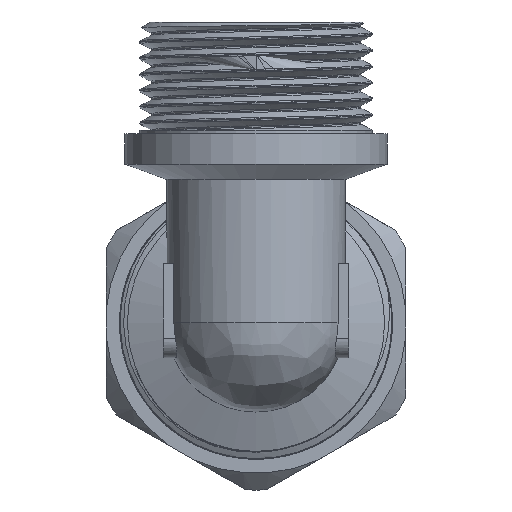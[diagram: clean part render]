
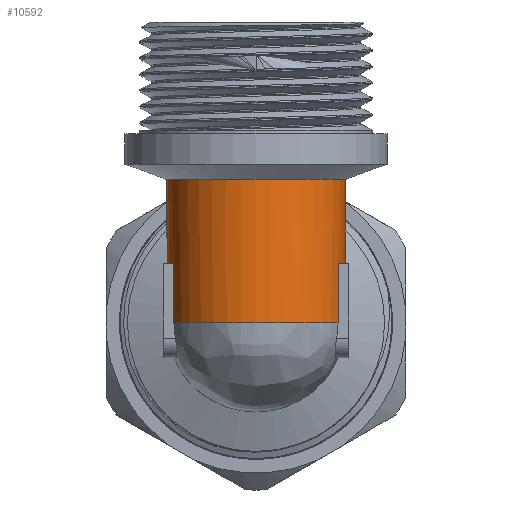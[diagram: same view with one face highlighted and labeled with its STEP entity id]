
A CAD part, front view. The second image highlights one B-rep face of the part: STEP entity #10592.
In plain terms, the highlighted cylindrical face has radius 12.75 mm (diameter 25.5 mm), a full revolution.
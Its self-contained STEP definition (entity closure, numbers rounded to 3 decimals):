
#1027=ELLIPSE('',#11269,18.031,12.75);
#1313=CYLINDRICAL_SURFACE('',#11333,12.75);
#1479=FACE_OUTER_BOUND('',#2091,.T.);
#2091=EDGE_LOOP('',(#7556,#7557,#7558,#7559,#7560,#7561,#7562,#7563,#7564,
#7565,#7566,#7567,#7568,#7569));
#2788=LINE('',#14310,#3485);
#2791=LINE('',#14316,#3488);
#2794=LINE('',#14327,#3491);
#2799=LINE('',#14341,#3496);
#2804=LINE('',#14403,#3501);
#3485=VECTOR('',#12171,10.);
#3488=VECTOR('',#12176,10.);
#3491=VECTOR('',#12181,10.);
#3496=VECTOR('',#12188,10.);
#3501=VECTOR('',#12225,12.75);
#4078=CIRCLE('',#11237,12.75);
#4079=CIRCLE('',#11238,12.75);
#4080=CIRCLE('',#11239,12.75);
#4104=CIRCLE('',#11319,12.75);
#4105=CIRCLE('',#11320,12.75);
#4106=CIRCLE('',#11322,12.75);
#4111=CIRCLE('',#11332,12.75);
#4353=VERTEX_POINT('',#13838);
#4354=VERTEX_POINT('',#13840);
#4355=VERTEX_POINT('',#13842);
#4377=VERTEX_POINT('',#13902);
#4378=VERTEX_POINT('',#13904);
#4467=VERTEX_POINT('',#14309);
#4469=VERTEX_POINT('',#14315);
#4471=VERTEX_POINT('',#14321);
#4472=VERTEX_POINT('',#14326);
#4474=VERTEX_POINT('',#14332);
#4476=VERTEX_POINT('',#14339);
#4477=VERTEX_POINT('',#14343);
#5489=EDGE_CURVE('',#4354,#4353,#4078,.T.);
#5490=EDGE_CURVE('',#4355,#4354,#4079,.T.);
#5491=EDGE_CURVE('',#4353,#4355,#4080,.T.);
#5519=EDGE_CURVE('',#4377,#4378,#1027,.T.);
#5654=EDGE_CURVE('',#4467,#4378,#2788,.T.);
#5657=EDGE_CURVE('',#4377,#4469,#2791,.T.);
#5661=EDGE_CURVE('',#4472,#4471,#2794,.T.);
#5667=EDGE_CURVE('',#4474,#4476,#2799,.T.);
#5668=EDGE_CURVE('',#4476,#4477,#4104,.T.);
#5670=EDGE_CURVE('',#4477,#4467,#4105,.T.);
#5671=EDGE_CURVE('',#4469,#4472,#4106,.T.);
#5680=EDGE_CURVE('',#4471,#4474,#4111,.T.);
#5681=EDGE_CURVE('',#4355,#4477,#2804,.T.);
#7556=ORIENTED_EDGE('',*,*,#5489,.T.);
#7557=ORIENTED_EDGE('',*,*,#5491,.T.);
#7558=ORIENTED_EDGE('',*,*,#5681,.T.);
#7559=ORIENTED_EDGE('',*,*,#5670,.T.);
#7560=ORIENTED_EDGE('',*,*,#5654,.T.);
#7561=ORIENTED_EDGE('',*,*,#5519,.F.);
#7562=ORIENTED_EDGE('',*,*,#5657,.T.);
#7563=ORIENTED_EDGE('',*,*,#5671,.T.);
#7564=ORIENTED_EDGE('',*,*,#5661,.T.);
#7565=ORIENTED_EDGE('',*,*,#5680,.T.);
#7566=ORIENTED_EDGE('',*,*,#5667,.T.);
#7567=ORIENTED_EDGE('',*,*,#5668,.T.);
#7568=ORIENTED_EDGE('',*,*,#5681,.F.);
#7569=ORIENTED_EDGE('',*,*,#5490,.T.);
#10592=ADVANCED_FACE('',(#1479),#1313,.T.);
#11237=AXIS2_PLACEMENT_3D('',#13841,#11897,#11898);
#11238=AXIS2_PLACEMENT_3D('',#13843,#11899,#11900);
#11239=AXIS2_PLACEMENT_3D('',#13844,#11901,#11902);
#11269=AXIS2_PLACEMENT_3D('',#13905,#11969,#11970);
#11319=AXIS2_PLACEMENT_3D('',#14344,#12191,#12192);
#11320=AXIS2_PLACEMENT_3D('',#14346,#12194,#12195);
#11322=AXIS2_PLACEMENT_3D('',#14348,#12198,#12199);
#11332=AXIS2_PLACEMENT_3D('',#14380,#12221,#12222);
#11333=AXIS2_PLACEMENT_3D('',#14402,#12223,#12224);
#11897=DIRECTION('center_axis',(0.,0.,-1.));
#11898=DIRECTION('ref_axis',(-1.,0.,0.));
#11899=DIRECTION('center_axis',(0.,0.,-1.));
#11900=DIRECTION('ref_axis',(-1.,0.,0.));
#11901=DIRECTION('center_axis',(0.,0.,-1.));
#11902=DIRECTION('ref_axis',(-1.,0.,0.));
#11969=DIRECTION('center_axis',(0.,0.707,-0.707));
#11970=DIRECTION('ref_axis',(0.,-0.707,-0.707));
#12171=DIRECTION('',(0.,0.,-1.));
#12176=DIRECTION('',(0.,0.,1.));
#12181=DIRECTION('',(0.,0.,-1.));
#12188=DIRECTION('',(0.,0.,1.));
#12191=DIRECTION('center_axis',(0.,0.,1.));
#12192=DIRECTION('ref_axis',(-1.,0.,0.));
#12194=DIRECTION('center_axis',(0.,0.,1.));
#12195=DIRECTION('ref_axis',(-1.,0.,0.));
#12198=DIRECTION('center_axis',(0.,0.,1.));
#12199=DIRECTION('ref_axis',(-1.,0.,0.));
#12221=DIRECTION('center_axis',(0.,0.,1.));
#12222=DIRECTION('ref_axis',(-1.,0.,0.));
#12223=DIRECTION('center_axis',(0.,0.,1.));
#12224=DIRECTION('ref_axis',(-1.,0.,0.));
#12225=DIRECTION('',(0.,0.,-1.));
#13838=CARTESIAN_POINT('',(0.,-29.25,20.5));
#13840=CARTESIAN_POINT('',(0.,-54.75,20.5));
#13841=CARTESIAN_POINT('Origin',(0.,-42.,20.5));
#13842=CARTESIAN_POINT('',(12.75,-42.,20.5));
#13843=CARTESIAN_POINT('Origin',(0.,-42.,20.5));
#13844=CARTESIAN_POINT('Origin',(0.,-42.,20.5));
#13902=CARTESIAN_POINT('',(-11.729,-37.,5.));
#13904=CARTESIAN_POINT('',(11.729,-37.,5.));
#13905=CARTESIAN_POINT('Origin',(0.,-42.,0.));
#14309=CARTESIAN_POINT('',(11.729,-37.,8.5));
#14310=CARTESIAN_POINT('',(11.729,-37.,0.));
#14315=CARTESIAN_POINT('',(-11.729,-37.,8.5));
#14316=CARTESIAN_POINT('',(-11.729,-37.,0.));
#14321=CARTESIAN_POINT('',(-11.729,-47.,0.));
#14326=CARTESIAN_POINT('',(-11.729,-47.,8.5));
#14327=CARTESIAN_POINT('',(-11.729,-47.,0.));
#14332=CARTESIAN_POINT('',(11.729,-47.,0.));
#14339=CARTESIAN_POINT('',(11.729,-47.,8.5));
#14341=CARTESIAN_POINT('',(11.729,-47.,0.));
#14343=CARTESIAN_POINT('',(12.75,-42.,8.5));
#14344=CARTESIAN_POINT('Origin',(0.,-42.,8.5));
#14346=CARTESIAN_POINT('Origin',(0.,-42.,8.5));
#14348=CARTESIAN_POINT('Origin',(0.,-42.,8.5));
#14380=CARTESIAN_POINT('Origin',(0.,-42.,0.));
#14402=CARTESIAN_POINT('Origin',(0.,-42.,0.));
#14403=CARTESIAN_POINT('',(12.75,-42.,0.));
